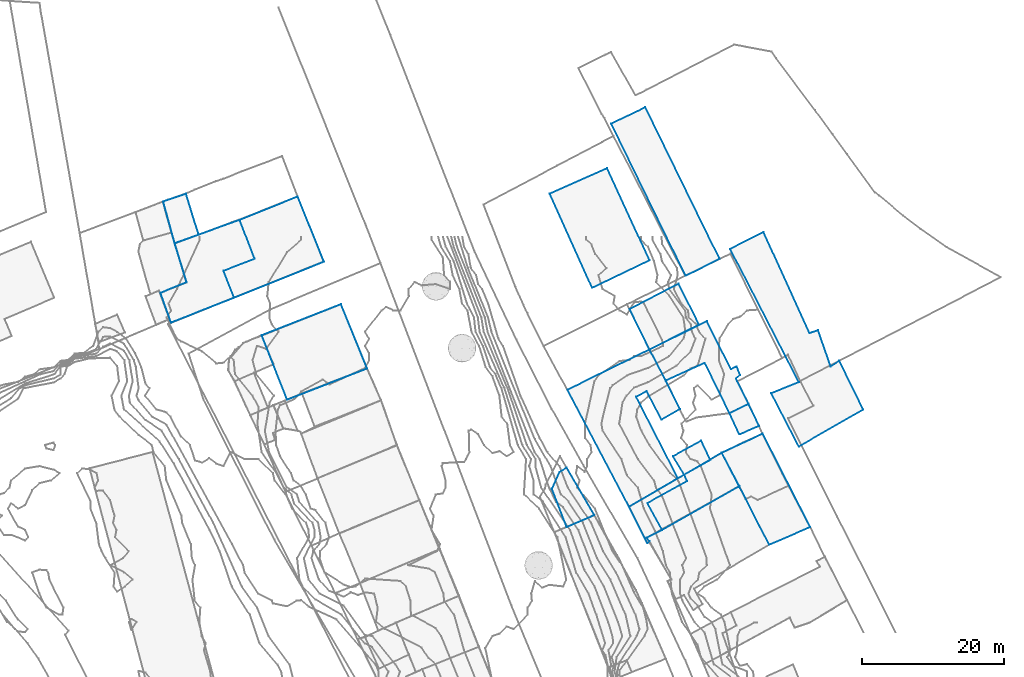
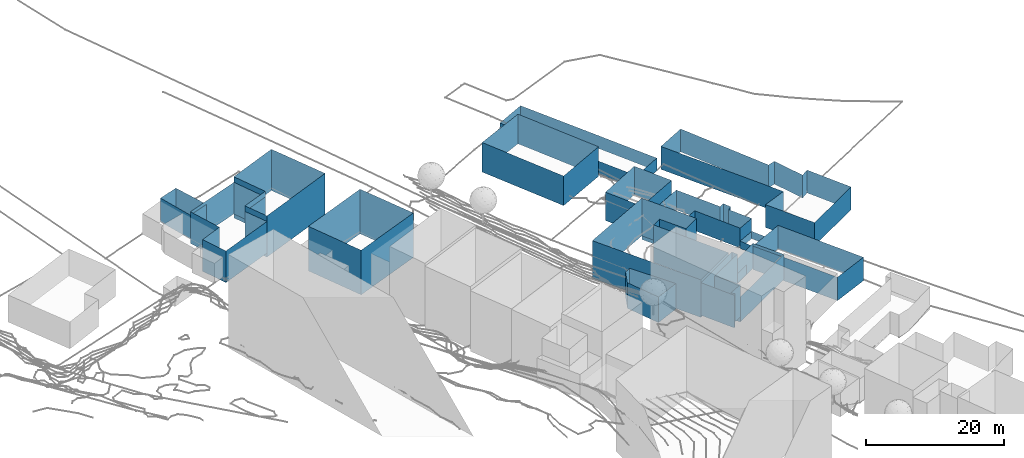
# Not in any storey, part 70 of 419: 16 walls.
"""IFC2X3 model written with IfcOpenShell, lengths in metres."""

import ifcopenshell
import ifcopenshell.guid

model = None  # the IFC model being written
_history = None  # IfcOwnerHistory: only IFC2X3 demands one
_inside = {}  # id of a spatial element -> (the spatial element, [elements in it])
_under = {}  # id of a project, library or spatial element -> (it, [spatial elements below it])
_declared = {}  # id of a project -> (the project, [libraries it declares])
_typed = {}  # id of a type object -> (the type object, [elements of that type])
_made_of = {}  # id of a material, layer set ... -> (it, [elements and type objects made of it])


def new_model(schema):
    """Start an empty IFC model of exactly this schema.

    Asked for "IFC4X3", IfcOpenShell would pick the latest addendum, in which some entities
    have other attributes; the version numbers below select the first issue.
    IFC2X3 requires an IfcOwnerHistory on every rooted entity: one is made here for all.
    """
    global model, _history
    if schema == "IFC4X3":
        model = ifcopenshell.file(schema_version=(4, 3, 0, 0))
    else:
        model = ifcopenshell.file(schema=schema)
    _inside.clear()
    _under.clear()
    _declared.clear()
    _typed.clear()
    _made_of.clear()
    _history = None
    if model.schema == "IFC2X3":
        org = make("IfcOrganization", Name="unknown")
        user = make(
            "IfcPersonAndOrganization",
            ThePerson=make("IfcPerson", FamilyName="unknown"),
            TheOrganization=org,
        )
        app = make(
            "IfcApplication",
            ApplicationDeveloper=org,
            Version="unknown",
            ApplicationFullName="unknown",
            ApplicationIdentifier="unknown",
        )
        _history = make(
            "IfcOwnerHistory",
            OwningUser=user,
            OwningApplication=app,
            ChangeAction="ADDED",
            CreationDate=0,
        )
    return model


def make(cls, **values):
    """One entity of the class cls with the attributes given. An attribute that is None is left unset."""
    return model.create_entity(
        cls, **{name: value for name, value in values.items() if value is not None}
    )


def rooted(cls, **values):
    """An entity with a GlobalId (a new one), such as an element, a storey or a relation."""
    return make(cls, GlobalId=ifcopenshell.guid.new(), OwnerHistory=_history, **values)


def si_unit(unit_type, name, prefix=None):
    """IfcSIUnit, for example si_unit("LENGTHUNIT", "METRE", prefix="MILLI")."""
    return make("IfcSIUnit", UnitType=unit_type, Prefix=prefix, Name=name)


def assignment(units):
    """IfcUnitAssignment: the units of a project."""
    return None if units is None else make("IfcUnitAssignment", Units=units)


def point(xyz):
    """IfcCartesianPoint."""
    return None if xyz is None else make("IfcCartesianPoint", Coordinates=xyz)


def direction(xyz):
    """IfcDirection."""
    return None if xyz is None else make("IfcDirection", DirectionRatios=xyz)


def frame(location, z_axis=None, x_axis=None):
    """IfcAxis2Placement3D, a coordinate frame: its origin and axes. An axis left out is left unset."""
    return make(
        "IfcAxis2Placement3D",
        Location=point(location),
        Axis=direction(z_axis),
        RefDirection=direction(x_axis),
    )


def origin_with_axes():
    """The frame at (0, 0, 0) with the z axis (0, 0, 1) and the x axis (1, 0, 0) written out."""
    return frame((0.0, 0.0, 0.0), z_axis=(0.0, 0.0, 1.0), x_axis=(1.0, 0.0, 0.0))


def place(relative_to, where):
    """IfcLocalPlacement: puts the frame where relative to a parent placement (None: the world)."""
    return make(
        "IfcLocalPlacement", PlacementRelTo=relative_to, RelativePlacement=where
    )


def context(
    kind, dimensions, precision=None, world=None, true_north=None, identifier=None
):
    """IfcGeometricRepresentationContext, for example the 3D "Model" context."""
    return make(
        "IfcGeometricRepresentationContext",
        ContextIdentifier=identifier,
        ContextType=kind,
        CoordinateSpaceDimension=dimensions,
        Precision=precision,
        WorldCoordinateSystem=world,
        TrueNorth=true_north,
    )


def subcontext(parent, identifier, kind, view, scale=None):
    """IfcGeometricRepresentationSubContext, for example "Body" below "Model"."""
    return make(
        "IfcGeometricRepresentationSubContext",
        ContextIdentifier=identifier,
        ContextType=kind,
        ParentContext=parent,
        TargetScale=scale,
        TargetView=view,
    )


def project(units=None, contexts=None):
    """IfcProject with its units and contexts."""
    return rooted(
        "IfcProject",
        Name="project",
        RepresentationContexts=contexts,
        UnitsInContext=assignment(units),
    )


def faces_of(points, faces, orient=None, outer=None):
    """IfcFace entities. A face is a list of loops; a loop is a list of indices into points, from 0.

    orient and outer hold one flag for each loop. By default every Orientation is true, the
    first loop of a face is its IfcFaceOuterBound and the others are IfcFaceBound.
    """
    made = []
    for i, loops in enumerate(faces):
        bounds = []
        for j, loop in enumerate(loops):
            is_outer = j == 0 if outer is None else outer[i][j]
            bounds.append(
                make(
                    "IfcFaceOuterBound" if is_outer else "IfcFaceBound",
                    Bound=make("IfcPolyLoop", Polygon=[points[k] for k in loop]),
                    Orientation=True if orient is None else orient[i][j],
                )
            )
        made.append(make("IfcFace", Bounds=bounds))
    return made


def faceted_brep(points, faces, orient=None, outer=None, voids=None):
    """IfcFacetedBrep: a solid bounded by flat faces; with voids (closed shells), ...WithVoids."""
    shared = [point(p) for p in points]
    hull = make("IfcClosedShell", CfsFaces=faces_of(shared, faces, orient, outer))
    if voids is None:
        return make("IfcFacetedBrep", Outer=hull)
    return make(
        "IfcFacetedBrepWithVoids",
        Outer=hull,
        Voids=[
            make(cls, CfsFaces=faces_of(shared, fs, o, b)) for cls, fs, o, b in voids
        ],
    )


def shape(context_of_items, identifier, shape_type, items):
    """IfcShapeRepresentation: the items that make up one representation, for example the "Body"."""
    return make(
        "IfcShapeRepresentation",
        ContextOfItems=context_of_items,
        RepresentationIdentifier=identifier,
        RepresentationType=shape_type,
        Items=items,
    )


def made_of(thing, what):
    """Note that an element or type object is made of a material, layer set ...; save() writes the relation."""
    if what is not None:
        _made_of.setdefault(what.id(), (what, []))[1].append(thing)
    return thing


def element(
    cls,
    number,
    at=None,
    inside=None,
    cuts=None,
    type_object=None,
    material=None,
    context=None,
    identifier="Body",
    shape_type=None,
    held_by="IfcProductDefinitionShape",
    body=None,
    shapes=None,
    **own,
):
    """One element of the class cls, such as IfcWall. Its Tag is "e" and its number.

    at: its placement. inside: the storey or other place that contains it. cuts: it is an
    opening in that element (IfcRelVoidsElement). A single representation is given by context,
    identifier, shape_type and body (its items); several are given by shapes. held_by: the class
    of the entity that holds the representations. save() writes the other relations.
    """
    e = rooted(cls, Tag="e%d" % number, ObjectPlacement=at, **own)
    if body is not None:
        shapes = [shape(context, identifier, shape_type, body)]
    if shapes is not None:
        e.Representation = make(held_by, Representations=shapes)
    if inside is not None:
        _inside.setdefault(inside.id(), (inside, []))[1].append(e)
    if cuts is not None:
        rooted(
            "IfcRelVoidsElement", RelatingBuildingElement=cuts, RelatedOpeningElement=e
        )
    if type_object is not None:
        _typed.setdefault(type_object.id(), (type_object, []))[1].append(e)
    return made_of(e, material)


def aggregate(whole, parts):
    """IfcRelAggregates: a whole, such as a stair, and the parts it consists of."""
    return rooted("IfcRelAggregates", RelatingObject=whole, RelatedObjects=parts)


def save(model, path):
    """Write the relations noted so far, then the file.

    IfcRelAggregates (storeys below a building ...), IfcRelContainedInSpatialStructure (elements
    in a storey), IfcRelDefinesByType, IfcRelAssociatesMaterial and IfcRelDeclares: one each for
    every whole, place, type object, material and project.
    """
    for whole, parts in _under.values():
        aggregate(whole, parts)
    for where, things in _inside.values():
        rooted(
            "IfcRelContainedInSpatialStructure",
            RelatedElements=things,
            RelatingStructure=where,
        )
    for kind, things in _typed.values():
        rooted("IfcRelDefinesByType", RelatedObjects=things, RelatingType=kind)
    for what, things in _made_of.values():
        rooted("IfcRelAssociatesMaterial", RelatedObjects=things, RelatingMaterial=what)
    for by, libraries in _declared.values():
        rooted("IfcRelDeclares", RelatingContext=by, RelatedDefinitions=libraries)
    model.write(path)


model = new_model("IFC2X3")

# Units and contexts
model_context = context("Model", 3, precision=1e-05, world=origin_with_axes())
body_context = subcontext(model_context, "Body", "Model", "MODEL_VIEW")
ifc_project = project(units=[si_unit("AREAUNIT", "SQUARE_METRE"), si_unit("LENGTHUNIT", "METRE")], contexts=[model_context])

# Walls
wall_1_placement = place(None, frame((892.1920204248, 1024.3976909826, 92.1908016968), z_axis=(0.0, 0.0, 1.0), x_axis=(1.0, 0.0, 0.0)))
element("IfcWall", 1, at=wall_1_placement, Name="Mur 0", context=body_context, shape_type="Brep", body=[
    faceted_brep([(10.4, -0.7000000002, 5.6091983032), (1.5, -4.2000000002, 5.6091983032), (10.4, -0.7000000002, 0.0), (1.5, -4.2000000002, 0.0), (8.9, 3.0999999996, 5.6091983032), (8.9, 3.0999999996, 0.0), (13.3, 4.7999999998, 5.6091983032), (13.3, 4.7999999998, 0.0), (11.2000000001, 10.2999999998, 5.6091983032), (11.2000000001, 10.2999999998, 0.0), (2.0, 7.0, 5.6091983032), (2.0, 7.0, 0.0), (3.7000000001, 1.5, 5.6091983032), (3.7000000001, 1.5, 0.0), (0.0, 0.0, 5.6091983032), (0.0, 0.0, 0.0)], [[[0, 1, 2]], [[2, 1, 3]], [[4, 0, 5]], [[5, 0, 2]], [[6, 4, 7]], [[7, 4, 5]], [[8, 6, 9]], [[9, 6, 7]], [[10, 8, 11]], [[11, 8, 9]], [[12, 10, 13]], [[13, 10, 11]], [[1, 14, 3]], [[3, 14, 15]], [[14, 12, 15]], [[15, 12, 13]]]),
])
wall_2_placement = place(None, frame((947.4920204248, 996.6976909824, 83.0450018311), z_axis=(0.0, 0.0, 1.0), x_axis=(1.0, 0.0, 0.0)))
element("IfcWall", 2, at=wall_2_placement, Name="Mur 0", context=body_context, shape_type="Brep", body=[
    faceted_brep([(6.0, -3.7000000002, 4.5549981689), (2.1, -5.3999999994, 4.5549981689), (6.0, -3.7000000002, 0.0), (2.1, -5.3999999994, 0.0), (2.1, 3.0, 4.5549981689), (2.1, 3.0, 0.0), (1.1, 2.4000000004, 4.5549981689), (1.1, 2.4000000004, 0.0), (0.0, 0.0, 4.5549981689), (0.0, 0.0, 0.0)], [[[0, 1, 2]], [[2, 1, 3]], [[4, 0, 5]], [[5, 0, 2]], [[6, 4, 7]], [[7, 4, 5]], [[1, 8, 3]], [[3, 8, 9]], [[8, 6, 9]], [[9, 6, 7]]]),
])
wall_3_placement = place(None, frame((906.4920204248, 1018.3976909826, 90.8884008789), z_axis=(0.0, 0.0, 1.0), x_axis=(1.0, 0.0, 0.0)))
element("IfcWall", 3, at=wall_3_placement, Name="Mur 0", context=body_context, shape_type="Brep", body=[
    faceted_brep([(11.2, 4.4000000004, 7.9115991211), (14.9, -4.7000000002, 7.9115991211), (11.2, 4.4000000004, 0.0), (14.9, -4.7000000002, 0.0), (0.0, 0.0, 7.9115991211), (0.0, 0.0, 0.0), (3.6, -9.0999999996, 7.9115991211), (3.6, -9.0999999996, 0.0)], [[[0, 1, 2]], [[2, 1, 3]], [[4, 0, 5]], [[5, 0, 2]], [[1, 6, 3]], [[3, 6, 7]], [[6, 4, 7]], [[7, 4, 5]]]),
])
wall_4_placement = place(None, frame((964.5920204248, 1001.2976909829, 78.8149993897), z_axis=(0.0, 0.0, 1.0), x_axis=(1.0, 0.0, 0.0)))
element("IfcWall", 4, at=wall_4_placement, Name="Mur 0", context=body_context, shape_type="Brep", body=[
    faceted_brep([(4.0, 2.1999999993, 1.6850006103), (5.3, -0.5, 1.6850006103), (4.0, 2.1999999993, 0.0), (5.3, -0.5, 0.0), (0.0, 0.0, 1.6850006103), (0.0, 0.0, 0.0), (1.6, -2.6000000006, 1.6850006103), (1.6, -2.6000000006, 0.0)], [[[0, 1, 2]], [[2, 1, 3]], [[4, 0, 5]], [[5, 0, 2]], [[1, 6, 3]], [[3, 6, 7]], [[6, 4, 7]], [[7, 4, 5]]]),
])
wall_5_placement = place(None, frame((892.5920204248, 1037.2976909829, 92.9800033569), z_axis=(0.0, 0.0, 1.0), x_axis=(1.0, 0.0, 0.0)))
element("IfcWall", 5, at=wall_5_placement, Name="Mur 0", context=body_context, shape_type="Brep", body=[
    faceted_brep([(5.0, -4.7000000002, 4.2199966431), (1.6, -5.9000000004, 4.2199966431), (5.0, -4.7000000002, 0.0), (1.6, -5.9000000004, 0.0), (3.2, 1.0999999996, 4.2199966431), (3.2, 1.0999999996, 0.0), (0.0, 0.0, 4.2199966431), (0.0, 0.0, 0.0)], [[[0, 1, 2]], [[2, 1, 3]], [[4, 0, 5]], [[5, 0, 2]], [[1, 6, 3]], [[3, 6, 7]], [[6, 4, 7]], [[7, 4, 5]]]),
])
wall_6_placement = place(None, frame((971.4920204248, 1001.7976909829, 78.444997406), z_axis=(0.0, 0.0, 1.0), x_axis=(1.0, 0.0, 0.0)))
element("IfcWall", 6, at=wall_6_placement, Name="Mur 0", context=body_context, shape_type="Brep", body=[
    faceted_brep([(6.7, -13.0, 4.155002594), (3.4, -6.5, 4.155002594), (6.7, -13.0, 0.0), (3.4, -6.5, 0.0), (12.5, -10.5, 4.155002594), (12.5, -10.5, 0.0), (5.7999999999, 2.6999999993, 4.155002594), (5.7999999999, 2.6999999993, 0.0), (0.0, 0.0, 4.155002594), (0.0, 0.0, 0.0)], [[[0, 1, 2]], [[2, 1, 3]], [[4, 0, 5]], [[5, 0, 2]], [[6, 4, 7]], [[7, 4, 5]], [[1, 8, 3]], [[3, 8, 9]], [[8, 6, 9]], [[9, 6, 7]]]),
])
wall_7_placement = place(None, frame((972.6920204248, 1030.5976909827, 78.3390022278), z_axis=(0.0, 0.0, 1.0), x_axis=(1.0, 0.0, 0.0)))
element("IfcWall", 7, at=wall_7_placement, Name="Mur 0", context=body_context, shape_type="Brep", body=[
    faceted_brep([(9.7000000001, -27.9000000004, 4.0609977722), (5.8, -20.4000000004, 4.0609977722), (9.7000000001, -27.9000000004, 0.0), (5.8, -20.4000000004, 0.0), (18.8, -22.7000000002, 4.0609977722), (18.8, -22.7000000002, 0.0), (15.4, -15.7999999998, 4.0609977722), (15.4, -15.7999999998, 0.0), (14.2000000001, -16.6000000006, 4.0609977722), (14.2000000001, -16.6000000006, 0.0), (12.4, -11.5, 4.0609977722), (12.4, -11.5, 0.0), (11.2000000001, -11.9000000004, 4.0609977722), (11.2000000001, -11.9000000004, 0.0), (4.7000000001, 2.3999999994, 4.0609977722), (4.7000000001, 2.3999999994, 0.0), (0.0, 0.0, 4.0609977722), (0.0, 0.0, 0.0), (9.7000000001, -18.7999999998, 4.0609977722), (9.7000000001, -18.7999999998, 0.0)], [[[0, 1, 2]], [[2, 1, 3]], [[4, 0, 5]], [[5, 0, 2]], [[6, 4, 7]], [[7, 4, 5]], [[8, 6, 9]], [[9, 6, 7]], [[10, 8, 11]], [[11, 8, 9]], [[12, 10, 13]], [[13, 10, 11]], [[14, 12, 15]], [[15, 12, 13]], [[16, 14, 17]], [[17, 14, 15]], [[1, 18, 3]], [[3, 18, 19]], [[18, 16, 19]], [[19, 16, 17]]]),
])
wall_8_placement = place(None, frame((961.2920204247, 1016.3976909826, 78.4847021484), z_axis=(0.0, 0.0, 1.0), x_axis=(1.0, 0.0, 0.0)))
element("IfcWall", 8, at=wall_8_placement, Name="Mur 0", context=body_context, shape_type="Brep", body=[
    faceted_brep([(12.2000000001, -4.0999999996, 3.5152978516), (14.0, -7.7000000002, 3.5152978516), (12.2000000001, -4.0999999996, 0.0), (14.0, -7.7000000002, 0.0), (12.8, -3.5999999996, 3.5152978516), (12.8, -3.5999999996, 0.0), (12.3, -2.4000000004, 3.5152978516), (12.3, -2.4000000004, 0.0), (11.5, -2.7999999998, 3.5152978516), (11.5, -2.7999999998, 0.0), (8.1000000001, 4.0, 3.5152978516), (8.1000000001, 4.0, 0.0), (0.0, 0.0, 3.5152978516), (0.0, 0.0, 0.0), (2.3, -4.4000000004, 3.5152978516), (2.3, -4.4000000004, 0.0), (7.8, -1.9000000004, 3.5152978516), (7.8, -1.9000000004, 0.0), (11.3, -9.0, 3.5152978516), (11.3, -9.0, 0.0)], [[[0, 1, 2]], [[2, 1, 3]], [[4, 0, 5]], [[5, 0, 2]], [[6, 4, 7]], [[7, 4, 5]], [[8, 6, 9]], [[9, 6, 7]], [[10, 8, 11]], [[11, 8, 9]], [[12, 10, 13]], [[13, 10, 11]], [[14, 12, 15]], [[15, 12, 13]], [[16, 14, 17]], [[17, 14, 15]], [[1, 18, 3]], [[3, 18, 19]], [[18, 16, 19]], [[19, 16, 17]]]),
])
wall_9_placement = place(None, frame((960.9920204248, 994.6976909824, 78.6699987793), z_axis=(0.0, 0.0, 1.0), x_axis=(1.0, 0.0, 0.0)))
element("IfcWall", 9, at=wall_9_placement, Name="Mur 0", context=body_context, shape_type="Brep", body=[
    faceted_brep([(10.5, 7.1000000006, 4.4300012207), (13.0, 2.4000000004, 4.4300012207), (10.5, 7.1000000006, 0.0), (13.0, 2.4000000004, 0.0), (5.2, 4.0, 4.4300012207), (5.2, 4.0, 0.0), (5.6, 3.1000000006, 4.4300012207), (5.6, 3.1000000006, 0.0), (0.0, 0.0, 4.4300012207), (0.0, 0.0, 0.0), (2.1, -3.7999999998, 4.4300012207), (2.1, -3.7999999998, 0.0)], [[[0, 1, 2]], [[2, 1, 3]], [[4, 0, 5]], [[5, 0, 2]], [[6, 4, 7]], [[7, 4, 5]], [[8, 6, 9]], [[9, 6, 7]], [[1, 10, 3]], [[3, 10, 11]], [[10, 8, 11]], [[11, 8, 9]]]),
])
wall_10_placement = place(None, frame((972.5920204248, 1007.3976909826, 78.3960006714), z_axis=(0.0, 0.0, 1.0), x_axis=(1.0, 0.0, 0.0)))
element("IfcWall", 10, at=wall_10_placement, Name="Mur 0", context=body_context, shape_type="Brep", body=[
    faceted_brep([(2.7, 1.2999999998, 1.3039993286), (4.2, -1.7999999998, 1.3039993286), (2.7, 1.2999999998, 0.0), (4.2, -1.7999999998, 0.0), (0.0, 0.0, 1.3039993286), (0.0, 0.0, 0.0), (1.4, -3.0, 1.3039993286), (1.4, -3.0, 0.0)], [[[0, 1, 2]], [[2, 1, 3]], [[4, 0, 5]], [[5, 0, 2]], [[1, 6, 3]], [[3, 6, 7]], [[6, 4, 7]], [[7, 4, 5]]]),
])
wall_11_placement = place(None, frame((955.8920204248, 1048.2976909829, 79.4224011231), z_axis=(0.0, 0.0, 1.0), x_axis=(1.0, 0.0, 0.0)))
element("IfcWall", 11, at=wall_11_placement, Name="Mur 0", context=body_context, shape_type="Brep", body=[
    faceted_brep([(4.7999999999, 2.2999999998, 2.2775988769), (15.2999999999, -19.1000000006, 2.2775988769), (4.7999999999, 2.2999999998, 0.0), (15.2999999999, -19.1000000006, 0.0), (0.0, 0.0, 2.2775988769), (0.0, 0.0, 0.0), (10.5, -21.5, 2.2775988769), (10.5, -21.5, 0.0)], [[[0, 1, 2]], [[2, 1, 3]], [[4, 0, 5]], [[5, 0, 2]], [[1, 6, 3]], [[3, 6, 7]], [[6, 4, 7]], [[7, 4, 5]]]),
])
wall_12_placement = place(None, frame((947.1920204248, 1038.3976909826, 82.0492008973), z_axis=(0.0, 0.0, 1.0), x_axis=(1.0, 0.0, 0.0)))
element("IfcWall", 12, at=wall_12_placement, Name="Mur 0", context=body_context, shape_type="Brep", body=[
    faceted_brep([(0.0, 0.0, 5.2507991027), (8.1, 3.5999999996, 5.2507991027), (0.0, 0.0, 0.0), (8.1, 3.5999999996, 0.0), (6.0, -13.2999999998, 5.2507991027), (6.0, -13.2999999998, 0.0), (14.1, -9.4000000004, 5.2507991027), (14.1, -9.4000000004, 0.0)], [[[0, 1, 2]], [[2, 1, 3]], [[4, 0, 5]], [[5, 0, 2]], [[1, 6, 3]], [[3, 6, 7]], [[6, 4, 7]], [[7, 4, 5]]]),
])
wall_13_placement = place(None, frame((958.3920204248, 994.1976909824, 79.5119995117), z_axis=(0.0, 0.0, 1.0), x_axis=(1.0, 0.0, 0.0)))
element("IfcWall", 13, at=wall_13_placement, Name="Mur 0", context=body_context, shape_type="Brep", body=[
    faceted_brep([(0.0, 0.0, 5.7880004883), (7.7999999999, 4.5, 5.7880004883), (0.0, 0.0, 0.0), (7.7999999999, 4.5, 0.0), (2.6, -5.2000000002, 5.7880004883), (2.6, -5.2000000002, 0.0), (2.8999999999, -4.8999999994, 5.7880004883), (2.8999999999, -4.8999999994, 0.0), (2.5, -4.3999999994, 5.7880004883), (2.5, -4.3999999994, 0.0), (4.7, -3.2999999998, 5.7880004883), (4.7, -3.2999999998, 0.0), (2.6, 0.5, 5.7880004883), (2.6, 0.5, 0.0), (8.2, 3.6000000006, 5.7880004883), (8.2, 3.6000000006, 0.0)], [[[0, 1, 2]], [[2, 1, 3]], [[4, 0, 5]], [[5, 0, 2]], [[6, 4, 7]], [[7, 4, 5]], [[8, 6, 9]], [[9, 6, 7]], [[10, 8, 11]], [[11, 8, 9]], [[12, 10, 13]], [[13, 10, 11]], [[1, 14, 3]], [[3, 14, 15]], [[14, 12, 15]], [[15, 12, 13]]]),
])
wall_14_placement = place(None, frame((958.4920204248, 1022.0976909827, 79.365800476), z_axis=(0.0, 0.0, 1.0), x_axis=(1.0, 0.0, 0.0)))
element("IfcWall", 14, at=wall_14_placement, Name="Mur 0", context=body_context, shape_type="Brep", body=[
    faceted_brep([(2.7999999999, -5.7000000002, 5.034199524), (0.0, 0.0, 5.034199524), (2.7999999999, -5.7000000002, 0.0), (0.0, 0.0, 0.0), (9.7999999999, -2.2000000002, 5.034199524), (9.7999999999, -2.2000000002, 0.0), (6.9, 3.5999999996, 5.034199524), (6.9, 3.5999999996, 0.0)], [[[0, 1, 2]], [[2, 1, 3]], [[4, 0, 5]], [[5, 0, 2]], [[1, 6, 3]], [[3, 6, 7]], [[6, 4, 7]], [[7, 4, 5]]]),
])
wall_15_placement = place(None, frame((901.0920204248, 1027.4976909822, 91.4766018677), z_axis=(0.0, 0.0, 1.0), x_axis=(1.0, 0.0, 0.0)))
element("IfcWall", 15, at=wall_15_placement, Name="Mur 0", context=body_context, shape_type="Brep", body=[
    faceted_brep([(14.2, 1.3000000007, 7.3233981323), (1.5, -3.7999999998, 7.3233981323), (14.2, 1.3000000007, 0.0), (1.5, -3.7999999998, 0.0), (10.5, 10.5, 7.3233981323), (10.5, 10.5, 0.0), (2.3, 7.2000000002, 7.3233981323), (2.3, 7.2000000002, 0.0), (4.4, 1.7000000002, 7.3233981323), (4.4, 1.7000000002, 0.0), (0.0, 0.0, 7.3233981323), (0.0, 0.0, 0.0)], [[[0, 1, 2]], [[2, 1, 3]], [[4, 0, 5]], [[5, 0, 2]], [[6, 4, 7]], [[7, 4, 5]], [[8, 6, 9]], [[9, 6, 7]], [[1, 10, 3]], [[3, 10, 11]], [[10, 8, 11]], [[11, 8, 9]]]),
])
wall_16_placement = place(None, frame((949.6920204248, 1010.6976909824, 79.1320007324), z_axis=(0.0, 0.0, 1.0), x_axis=(1.0, 0.0, 0.0)))
element("IfcWall", 16, at=wall_16_placement, Name="Mur 0", context=body_context, shape_type="Brep", body=[
    faceted_brep([(11.6, 5.7000000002, 6.6679992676), (13.9, 1.2999999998, 6.6679992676), (11.6, 5.7000000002, 0.0), (13.9, 1.2999999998, 0.0), (0.0, 0.0, 6.6679992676), (0.0, 0.0, 0.0), (8.7000000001, -16.5, 6.6679992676), (8.7000000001, -16.5, 0.0), (15.6, -12.5, 6.6679992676), (15.6, -12.5, 0.0), (9.7000000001, -1.0, 6.6679992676), (9.7000000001, -1.0, 0.0), (11.2000000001, -0.2000000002, 6.6679992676), (11.2000000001, -0.2000000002, 0.0), (13.3, -4.2000000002, 6.6679992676), (13.3, -4.2000000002, 0.0), (15.9, -2.7000000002, 6.6679992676), (15.9, -2.7000000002, 0.0)], [[[0, 1, 2]], [[2, 1, 3]], [[4, 0, 5]], [[5, 0, 2]], [[6, 4, 7]], [[7, 4, 5]], [[8, 6, 9]], [[9, 6, 7]], [[10, 8, 11]], [[11, 8, 9]], [[12, 10, 13]], [[13, 10, 11]], [[14, 12, 15]], [[15, 12, 13]], [[1, 16, 3]], [[3, 16, 17]], [[16, 14, 17]], [[17, 14, 15]]]),
])

save(model, "model.ifc")
